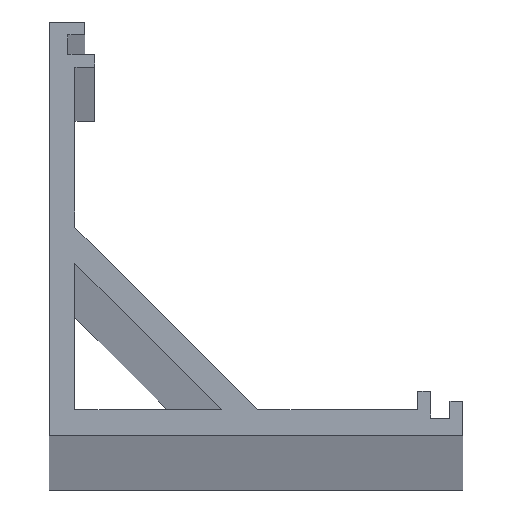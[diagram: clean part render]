
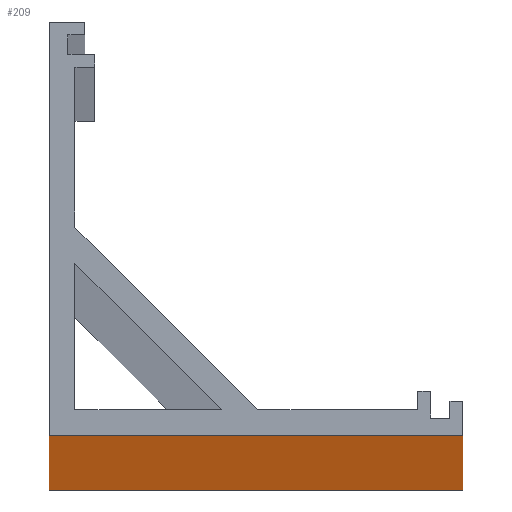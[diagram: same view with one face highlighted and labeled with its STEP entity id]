
A CAD part, top view. The second image highlights one B-rep face of the part: STEP entity #209.
In plain terms, the highlighted planar face has unit normal (0, -1, 0).
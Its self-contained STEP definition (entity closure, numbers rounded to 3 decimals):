
#46 = DIRECTION ( 'NONE',  ( 1., 0., 0. ) ) ;
#69 = VERTEX_POINT ( 'NONE', #71 ) ;
#71 = CARTESIAN_POINT ( 'NONE',  ( 16., 0., 600. ) ) ;
#85 = VECTOR ( 'NONE', #403, 1000. ) ;
#109 = LINE ( 'NONE', #546, #196 ) ;
#112 = EDGE_CURVE ( 'NONE', #715, #481, #137, .T. ) ;
#126 = ORIENTED_EDGE ( 'NONE', *, *, #336, .F. ) ;
#132 = CARTESIAN_POINT ( 'NONE',  ( 0., 0., 600. ) ) ;
#137 = LINE ( 'NONE', #387, #599 ) ;
#138 = DIRECTION ( 'NONE',  ( 1., 0., 0. ) ) ;
#155 = LINE ( 'NONE', #643, #85 ) ;
#196 = VECTOR ( 'NONE', #46, 1000. ) ;
#207 = ORIENTED_EDGE ( 'NONE', *, *, #457, .T. ) ;
#209 = ADVANCED_FACE ( 'NONE', ( #588 ), #697, .F. ) ;
#223 = VERTEX_POINT ( 'NONE', #642 ) ;
#263 = AXIS2_PLACEMENT_3D ( 'NONE', #755, #767, #278 ) ;
#278 = DIRECTION ( 'NONE',  ( 0., 0., 1. ) ) ;
#299 = EDGE_LOOP ( 'NONE', ( #207, #126, #720, #785 ) ) ;
#327 = DIRECTION ( 'NONE',  ( 0., 0., -1. ) ) ;
#336 = EDGE_CURVE ( 'NONE', #69, #223, #155, .T. ) ;
#356 = CARTESIAN_POINT ( 'NONE',  ( 0., 0., -600. ) ) ;
#384 = CARTESIAN_POINT ( 'NONE',  ( 0., 0., 600. ) ) ;
#387 = CARTESIAN_POINT ( 'NONE',  ( 0., 0., 600. ) ) ;
#403 = DIRECTION ( 'NONE',  ( 0., 0., -1. ) ) ;
#423 = EDGE_CURVE ( 'NONE', #715, #69, #689, .T. ) ;
#457 = EDGE_CURVE ( 'NONE', #481, #223, #109, .T. ) ;
#481 = VERTEX_POINT ( 'NONE', #356 ) ;
#546 = CARTESIAN_POINT ( 'NONE',  ( 0., 0., -600. ) ) ;
#588 = FACE_OUTER_BOUND ( 'NONE', #299, .T. ) ;
#599 = VECTOR ( 'NONE', #327, 1000. ) ;
#611 = VECTOR ( 'NONE', #138, 1000. ) ;
#642 = CARTESIAN_POINT ( 'NONE',  ( 16., 0., -600. ) ) ;
#643 = CARTESIAN_POINT ( 'NONE',  ( 16., 0., 600. ) ) ;
#689 = LINE ( 'NONE', #384, #611 ) ;
#697 = PLANE ( 'NONE',  #263 ) ;
#715 = VERTEX_POINT ( 'NONE', #132 ) ;
#720 = ORIENTED_EDGE ( 'NONE', *, *, #423, .F. ) ;
#755 = CARTESIAN_POINT ( 'NONE',  ( 0., 0., 600. ) ) ;
#767 = DIRECTION ( 'NONE',  ( 0., 1., 0. ) ) ;
#785 = ORIENTED_EDGE ( 'NONE', *, *, #112, .T. ) ;
